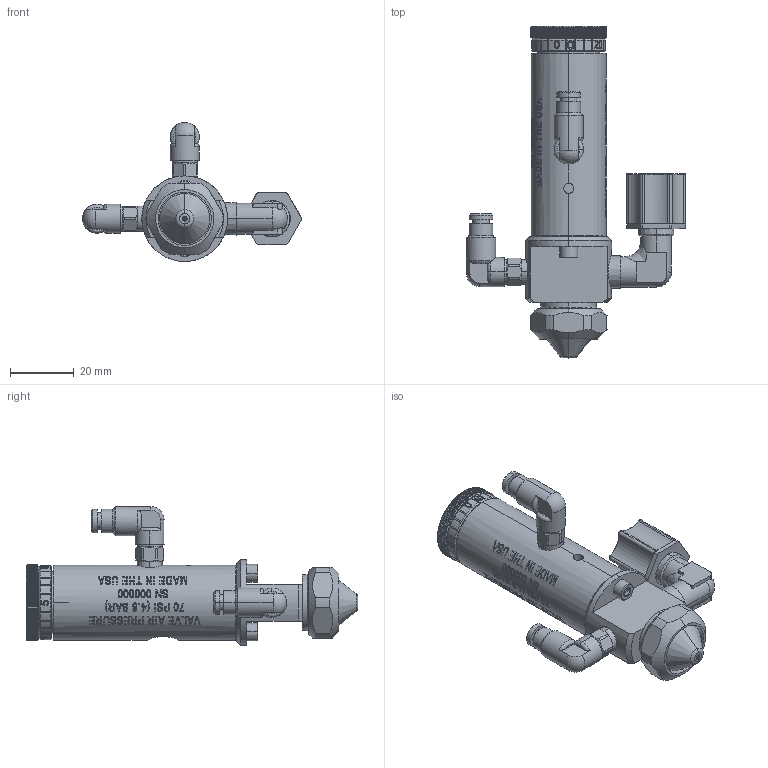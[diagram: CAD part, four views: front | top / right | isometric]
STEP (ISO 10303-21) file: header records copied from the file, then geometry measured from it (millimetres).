
FILE_DESCRIPTION (( 'STEP AP214' ), '1' );
FILE_NAME ('NORDSONEFD-7021613 SS SPRAY VALVE 028 NOZZLE.STEP', '2019-01-19T05:28:11', ( '' ), ( '' ), 'SwSTEP 2.0', 'SolidWorks 2018', '' );
FILE_SCHEMA (( 'AUTOMOTIVE_DESIGN' ));
Length unit declared in the file: inch
Products named in the file (1): NORDSONEFD-7021613 SS SPRAY VALVE 028 NOZZLE
Bounding box: 68.86 x 104.34 x 43.69 mm (x, y, z)
Volume: 48552.9 mm3; surface area: 15500.7 mm2
Topology: 1 solids, 1 shells, 1759 faces, 4733 edges, 3100 vertices
Faces by surface type: plane 848, bspline 383, cylinder 373, cone 100, torus 54, sphere 1
Entity records: 76235 total; most frequent: CARTESIAN_POINT 33171, ORIENTED_EDGE 9452, DIRECTION 6807, EDGE_CURVE 4726, VERTEX_POINT 3100, AXIS2_PLACEMENT_3D 2388, LINE 2031, VECTOR 2031
